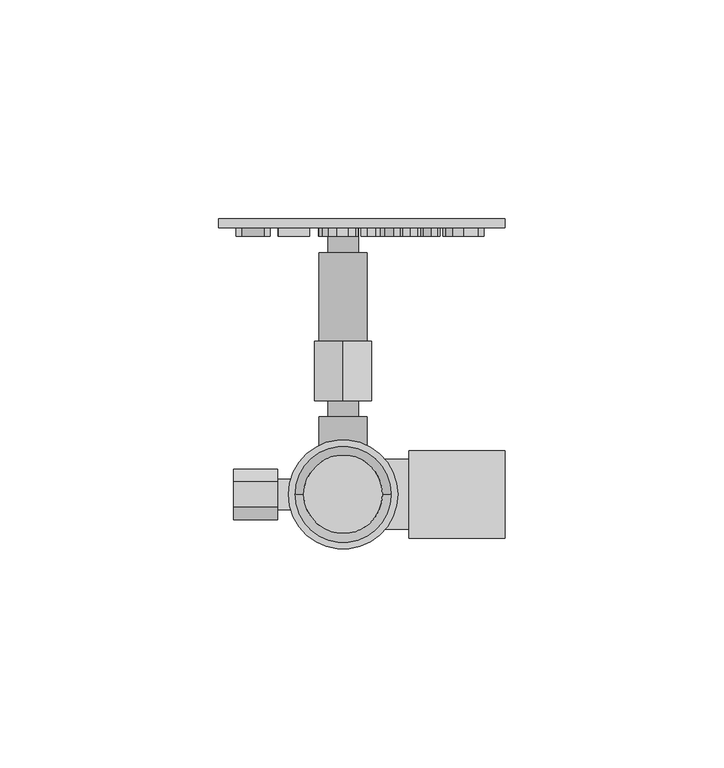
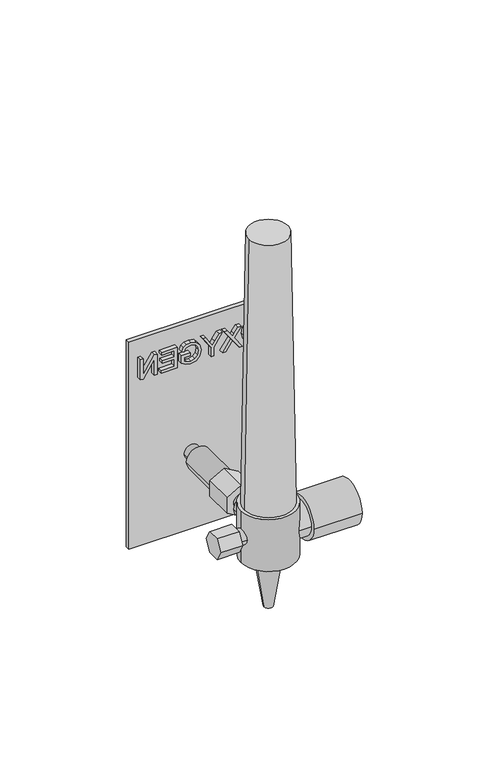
"""IFC4 building model written with IfcOpenShell, lengths in millimetres: proxy geometry, BIMHealth-Flowmeter_Oxygen-LOD2A-v1 : BIMHealth-Flowmeter_Oxygen-LOD2A-v1."""

import ifcopenshell
import ifcopenshell.guid

model = None  # the IFC model being written
_history = None  # IfcOwnerHistory: only IFC2X3 demands one
_inside = {}  # id of a spatial element -> (the spatial element, [elements in it])
_under = {}  # id of a project, library or spatial element -> (it, [spatial elements below it])
_declared = {}  # id of a project -> (the project, [libraries it declares])
_typed = {}  # id of a type object -> (the type object, [elements of that type])
_made_of = {}  # id of a material, layer set ... -> (it, [elements and type objects made of it])


def new_model(schema):
    """Start an empty IFC model of exactly this schema.

    Asked for "IFC4X3", IfcOpenShell would pick the latest addendum, in which some entities
    have other attributes; the version numbers below select the first issue.
    IFC2X3 requires an IfcOwnerHistory on every rooted entity: one is made here for all.
    """
    global model, _history
    if schema == "IFC4X3":
        model = ifcopenshell.file(schema_version=(4, 3, 0, 0))
    else:
        model = ifcopenshell.file(schema=schema)
    _inside.clear()
    _under.clear()
    _declared.clear()
    _typed.clear()
    _made_of.clear()
    _history = None
    if model.schema == "IFC2X3":
        org = make("IfcOrganization", Name="unknown")
        user = make(
            "IfcPersonAndOrganization",
            ThePerson=make("IfcPerson", FamilyName="unknown"),
            TheOrganization=org,
        )
        app = make(
            "IfcApplication",
            ApplicationDeveloper=org,
            Version="unknown",
            ApplicationFullName="unknown",
            ApplicationIdentifier="unknown",
        )
        _history = make(
            "IfcOwnerHistory",
            OwningUser=user,
            OwningApplication=app,
            ChangeAction="ADDED",
            CreationDate=0,
        )
    return model


def make(cls, **values):
    """One entity of the class cls with the attributes given. An attribute that is None is left unset."""
    return model.create_entity(
        cls, **{name: value for name, value in values.items() if value is not None}
    )


def rooted(cls, **values):
    """An entity with a GlobalId (a new one), such as an element, a storey or a relation."""
    return make(cls, GlobalId=ifcopenshell.guid.new(), OwnerHistory=_history, **values)


def si_unit(unit_type, name, prefix=None):
    """IfcSIUnit, for example si_unit("LENGTHUNIT", "METRE", prefix="MILLI")."""
    return make("IfcSIUnit", UnitType=unit_type, Prefix=prefix, Name=name)


def assignment(units):
    """IfcUnitAssignment: the units of a project."""
    return None if units is None else make("IfcUnitAssignment", Units=units)


def point(xyz):
    """IfcCartesianPoint."""
    return None if xyz is None else make("IfcCartesianPoint", Coordinates=xyz)


def direction(xyz):
    """IfcDirection."""
    return None if xyz is None else make("IfcDirection", DirectionRatios=xyz)


def frame(location, z_axis=None, x_axis=None):
    """IfcAxis2Placement3D, a coordinate frame: its origin and axes. An axis left out is left unset."""
    return make(
        "IfcAxis2Placement3D",
        Location=point(location),
        Axis=direction(z_axis),
        RefDirection=direction(x_axis),
    )


def frame_2d(location, x_axis=None):
    """IfcAxis2Placement2D, a coordinate frame in the plane: its origin and x axis."""
    return make(
        "IfcAxis2Placement2D", Location=point(location), RefDirection=direction(x_axis)
    )


def origin():
    """The frame at (0, 0, 0) with its axes left unset."""
    return frame((0.0, 0.0, 0.0))


def origin_2d():
    """The frame at (0, 0) in the plane with its x axis left unset."""
    return frame_2d((0.0, 0.0))


def place(relative_to, where):
    """IfcLocalPlacement: puts the frame where relative to a parent placement (None: the world)."""
    return make(
        "IfcLocalPlacement", PlacementRelTo=relative_to, RelativePlacement=where
    )


def context(
    kind, dimensions, precision=None, world=None, true_north=None, identifier=None
):
    """IfcGeometricRepresentationContext, for example the 3D "Model" context."""
    return make(
        "IfcGeometricRepresentationContext",
        ContextIdentifier=identifier,
        ContextType=kind,
        CoordinateSpaceDimension=dimensions,
        Precision=precision,
        WorldCoordinateSystem=world,
        TrueNorth=true_north,
    )


def project(units=None, contexts=None):
    """IfcProject with its units and contexts."""
    return rooted(
        "IfcProject",
        Name="project",
        RepresentationContexts=contexts,
        UnitsInContext=assignment(units),
    )


def spatial(cls, under=None, at=None, **own):
    """A site, building, storey or space (cls), placed at a placement, below another one or the project."""
    s = rooted(cls, ObjectPlacement=at, **own)
    if under is not None:
        _under.setdefault(under.id(), (under, []))[1].append(s)
    return s


def polyline(points):
    """IfcPolyline through the points."""
    return make("IfcPolyline", Points=[point(p) for p in points])


def circle_curve(where, radius):
    """IfcCircle in the frame where."""
    return make("IfcCircle", Position=where, Radius=radius)


def trimmed(basis, trim1, trim2, sense, master):
    """IfcTrimmedCurve: the piece of a basis curve between two trims."""
    return make(
        "IfcTrimmedCurve",
        BasisCurve=basis,
        Trim1=trim1,
        Trim2=trim2,
        SenseAgreement=sense,
        MasterRepresentation=master,
    )


def segment(curve, same_sense, transition):
    """IfcCompositeCurveSegment."""
    return make(
        "IfcCompositeCurveSegment",
        Transition=transition,
        SameSense=same_sense,
        ParentCurve=curve,
    )


def composite_curve(segments, self_intersect=None):
    """IfcCompositeCurve: segments joined end to end."""
    return make("IfcCompositeCurve", Segments=segments, SelfIntersect=self_intersect)


def outline(outer, holes=None, kind="AREA"):
    """IfcArbitraryClosedProfileDef: a profile drawn as a closed curve; with holes, ...WithVoids."""
    if holes is None:
        return make("IfcArbitraryClosedProfileDef", ProfileType=kind, OuterCurve=outer)
    return make(
        "IfcArbitraryProfileDefWithVoids",
        ProfileType=kind,
        OuterCurve=outer,
        InnerCurves=holes,
    )


def extrude(swept, where, along, depth):
    """IfcExtrudedAreaSolid: the profile swept, set in the frame where, extruded along a direction by depth."""
    return make(
        "IfcExtrudedAreaSolid",
        SweptArea=swept,
        Position=where,
        ExtrudedDirection=direction(along),
        Depth=depth,
    )


def shape(context_of_items, identifier, shape_type, items):
    """IfcShapeRepresentation: the items that make up one representation, for example the "Body"."""
    return make(
        "IfcShapeRepresentation",
        ContextOfItems=context_of_items,
        RepresentationIdentifier=identifier,
        RepresentationType=shape_type,
        Items=items,
    )


def source(mapping_origin, context_of_items, identifier, shape_type, items):
    """IfcRepresentationMap: a shape defined once, which mapped items show again and again."""
    return make(
        "IfcRepresentationMap",
        MappingOrigin=mapping_origin,
        MappedRepresentation=shape(context_of_items, identifier, shape_type, items),
    )


def transform(
    local_origin,
    x_axis=None,
    y_axis=None,
    z_axis=None,
    scale=None,
    scale2=None,
    scale3=None,
    uniform=True,
):
    """IfcCartesianTransformationOperator3D, or its non-uniform kind. x_axis, y_axis, z_axis: its Axis1, 2, 3."""
    if uniform:
        return make(
            "IfcCartesianTransformationOperator3D",
            Axis1=direction(x_axis),
            Axis2=direction(y_axis),
            LocalOrigin=point(local_origin),
            Scale=scale,
            Axis3=direction(z_axis),
        )
    return make(
        "IfcCartesianTransformationOperator3DnonUniform",
        Axis1=direction(x_axis),
        Axis2=direction(y_axis),
        LocalOrigin=point(local_origin),
        Scale=scale,
        Axis3=direction(z_axis),
        Scale2=scale2,
        Scale3=scale3,
    )


def mapped(mapping_source, mapping_target):
    """IfcMappedItem: shows the shape of a source again, moved by a transform."""
    return make(
        "IfcMappedItem", MappingSource=mapping_source, MappingTarget=mapping_target
    )


def made_of(thing, what):
    """Note that an element or type object is made of a material, layer set ...; save() writes the relation."""
    if what is not None:
        _made_of.setdefault(what.id(), (what, []))[1].append(thing)
    return thing


def element(
    cls,
    number,
    at=None,
    inside=None,
    cuts=None,
    type_object=None,
    material=None,
    context=None,
    identifier="Body",
    shape_type=None,
    held_by="IfcProductDefinitionShape",
    body=None,
    shapes=None,
    **own,
):
    """One element of the class cls, such as IfcWall. Its Tag is "e" and its number.

    at: its placement. inside: the storey or other place that contains it. cuts: it is an
    opening in that element (IfcRelVoidsElement). A single representation is given by context,
    identifier, shape_type and body (its items); several are given by shapes. held_by: the class
    of the entity that holds the representations. save() writes the other relations.
    """
    e = rooted(cls, Tag="e%d" % number, ObjectPlacement=at, **own)
    if body is not None:
        shapes = [shape(context, identifier, shape_type, body)]
    if shapes is not None:
        e.Representation = make(held_by, Representations=shapes)
    if inside is not None:
        _inside.setdefault(inside.id(), (inside, []))[1].append(e)
    if cuts is not None:
        rooted(
            "IfcRelVoidsElement", RelatingBuildingElement=cuts, RelatedOpeningElement=e
        )
    if type_object is not None:
        _typed.setdefault(type_object.id(), (type_object, []))[1].append(e)
    return made_of(e, material)


def aggregate(whole, parts):
    """IfcRelAggregates: a whole, such as a stair, and the parts it consists of."""
    return rooted("IfcRelAggregates", RelatingObject=whole, RelatedObjects=parts)


def save(model, path):
    """Write the relations noted so far, then the file.

    IfcRelAggregates (storeys below a building ...), IfcRelContainedInSpatialStructure (elements
    in a storey), IfcRelDefinesByType, IfcRelAssociatesMaterial and IfcRelDeclares: one each for
    every whole, place, type object, material and project.
    """
    for whole, parts in _under.values():
        aggregate(whole, parts)
    for where, things in _inside.values():
        rooted(
            "IfcRelContainedInSpatialStructure",
            RelatedElements=things,
            RelatingStructure=where,
        )
    for kind, things in _typed.values():
        rooted("IfcRelDefinesByType", RelatedObjects=things, RelatingType=kind)
    for what, things in _made_of.values():
        rooted("IfcRelAssociatesMaterial", RelatedObjects=things, RelatingMaterial=what)
    for by, libraries in _declared.values():
        rooted("IfcRelDeclares", RelatingContext=by, RelatedDefinitions=libraries)
    model.write(path)


def plane_surface(at):
    """IfcPlane: the flat surface through the origin of the frame at, square to its z axis."""
    return make("IfcPlane", Position=at)


def cylinder_surface(at, radius):
    """IfcCylindricalSurface: all points at the distance radius from the z axis of the frame at."""
    return make("IfcCylindricalSurface", Position=at, Radius=radius)


def revolved_surface(curve, axis_point, axis_direction):
    """IfcSurfaceOfRevolution: the curve turned about the line through axis_point along axis_direction."""
    return make(
        "IfcSurfaceOfRevolution",
        SweptCurve=make("IfcArbitraryOpenProfileDef", ProfileType="CURVE", Curve=curve),
        AxisPosition=make("IfcAxis1Placement", Location=point(axis_point), Axis=direction(axis_direction)),
    )


def advanced_brep(points, edges, surfaces, faces):
    """IfcAdvancedBrep: a solid bounded by faces that lie on surfaces and meet in shared edges.

    An edge is (start, end): straight between two places in points (the first is 0);
    or (start, end, curve); or (start, end, curve, False) where it runs against its curve.
    A face is (place in surfaces, loops), or (place, loops, False) where it looks against
    its surface's normal. A loop lists edges by number (the first is 1), with a minus sign
    where the edge is run from its end to its start. The first loop is the outer one.
    """
    corners = [point(p) for p in points]
    vertices = [make("IfcVertexPoint", VertexGeometry=c) for c in corners]
    made = []
    for start, end, *more in edges:
        made.append(
            make(
                "IfcEdgeCurve",
                EdgeStart=vertices[start],
                EdgeEnd=vertices[end],
                EdgeGeometry=more[0] if more else make("IfcPolyline", Points=[corners[start], corners[end]]),
                SameSense=more[1] if len(more) > 1 else True,
            )
        )
    hull = []
    for where, loops, *sense in faces:
        bounds = []
        for j, loop in enumerate(loops):
            ring = [make("IfcOrientedEdge", EdgeElement=made[abs(k) - 1], Orientation=k > 0) for k in loop]
            bounds.append(
                make(
                    "IfcFaceOuterBound" if j == 0 else "IfcFaceBound",
                    Bound=make("IfcEdgeLoop", EdgeList=ring),
                    Orientation=True,
                )
            )
        hull.append(make("IfcAdvancedFace", Bounds=bounds, FaceSurface=surfaces[where], SameSense=sense[0] if sense else True))
    return make("IfcAdvancedBrep", Outer=make("IfcClosedShell", CfsFaces=hull))


def generic_models_37f5f703(model_context):
    return source(origin(), model_context, "Body", "SolidModel", [
        extrude(outline(polyline([(1261.3333647, 32.1837079), (1265.1578839, 30.8712079), (1266.5400955, 27.4841887), (1265.891057, 25.0346694), (1264.0809608, 23.3712079), (1261.4463455, 22.7990925), (1258.7756724, 23.401256), (1256.9920185, 25.1079868), (1256.3862493, 27.4914002), (1257.0557205, 29.9673618), (1258.8826435, 31.6212079), (1261.3333647, 32.1837079)]), holes=[polyline([(1261.3213455, 30.9529387), (1258.6074032, 29.9685637), (1257.6170185, 27.4986118), (1258.6170185, 25.0070252), (1261.4559608, 24.0298618), (1263.4872108, 24.448131), (1264.8321628, 25.6704868), (1265.3093262, 27.4769771), (1264.3898551, 29.9264964), (1261.3213455, 30.9529387)])]), frame((0.0, 58.9451551, 0.0), z_axis=(0.0, 1.0, 0.0), x_axis=(0.0, 0.0, 1.0)), (0.0, 0.0, 1.0), 2.0),
        extrude(outline(polyline([(1256.5400955, 22.1837079), (1261.9054801, 18.3904387), (1266.3862493, 21.5683233), (1266.3862493, 20.0947656), (1263.8622108, 18.3039002), (1262.8790378, 17.7005348), (1263.8838455, 16.9938041), (1266.3862493, 15.2221694), (1266.3862493, 13.7221694), (1261.8886532, 16.9024579), (1256.5400955, 13.1067848), (1256.5400955, 14.5827464), (1260.1049993, 17.1139964), (1260.8429801, 17.6404387), (1260.0328839, 18.2149579), (1256.5400955, 20.6837079), (1256.5400955, 22.1837079)])), frame((0.0, 58.9451551, 0.0), z_axis=(0.0, 1.0, 0.0), x_axis=(0.0, 0.0, 1.0)), (0.0, 0.0, 1.0), 2.0),
        extrude(outline(polyline([(1256.5400955, 9.1067848), (1260.7107685, 9.1067848), (1266.3862493, 12.9529387), (1266.3862493, 11.5034194), (1263.3549993, 9.4505348), (1261.8069224, 8.4000541), (1263.4655762, 7.3447656), (1266.3862493, 5.4817848), (1266.3862493, 4.0298618), (1260.7107685, 7.8760156), (1256.5400955, 7.8760156), (1256.5400955, 9.1067848)])), frame((0.0, 58.9451551, 0.0), z_axis=(0.0, 1.0, 0.0), x_axis=(0.0, 0.0, 1.0)), (0.0, 0.0, 1.0), 2.0),
        extrude(outline(polyline([(1260.3862493, -1.6624459), (1261.6170185, -1.6624459), (1261.6170185, -5.6624459), (1257.9367301, -5.6624459), (1256.7756724, -3.6876863), (1256.3862493, -1.5999459), (1257.0052397, 1.0286598), (1258.797307, 2.8123137), (1261.4150955, 3.4144771), (1264.0917782, 2.8147175), (1265.9367301, 1.0899579), (1266.5400955, -1.5013882), (1266.1903358, -3.426869), (1265.2167782, -4.7766286), (1263.5881724, -5.520619), (1263.2684608, -4.3860036), (1264.406682, -3.8247056), (1265.062932, -2.8655709), (1265.3093262, -1.4821575), (1265.0437012, 0.0935637), (1264.3465858, 1.1656791), (1263.3982685, 1.7990925), (1261.4655762, 2.1837079), (1259.3201435, 1.7209675), (1258.0364897, 0.3748137), (1257.6170185, -1.5013882), (1257.9331243, -3.1852825), (1258.6074032, -4.4316767), (1260.3862493, -4.4316767), (1260.3862493, -1.6624459)])), frame((0.0, 58.9451551, 0.0), z_axis=(0.0, 1.0, 0.0), x_axis=(0.0, 0.0, 1.0)), (0.0, 0.0, 1.0), 2.0),
        extrude(outline(polyline([(1256.5400955, -7.6624459), (1266.3862493, -7.6624459), (1266.3862493, -14.739369), (1265.1554801, -14.739369), (1265.1554801, -8.8932152), (1262.2324032, -8.8932152), (1262.2324032, -14.4316767), (1261.0016339, -14.4316767), (1261.0016339, -8.8932152), (1257.7708647, -8.8932152), (1257.7708647, -14.8932152), (1256.5400955, -14.8932152), (1256.5400955, -7.6624459)])), frame((0.0, 58.9451551, 0.0), z_axis=(0.0, 1.0, 0.0), x_axis=(0.0, 0.0, 1.0)), (0.0, 0.0, 1.0), 2.0),
        extrude(outline(polyline([(1256.5400955, -16.739369), (1266.3862493, -16.739369), (1266.3862493, -18.0566767), (1258.5857685, -23.2009075), (1266.3862493, -23.2009075), (1266.3862493, -24.4316767), (1256.5400955, -24.4316767), (1256.5400955, -23.114369), (1264.3429801, -17.9701382), (1256.5400955, -17.9701382), (1256.5400955, -16.739369)])), frame((0.0, 58.9451551, 0.0), z_axis=(0.0, 1.0, 0.0), x_axis=(0.0, 0.0, 1.0)), (0.0, 0.0, 1.0), 2.0),
        extrude(outline(polyline([(37.0, 62.9451551), (37.0, 60.9451551), (-28.4571603, 60.9451551), (-28.4571603, 62.9451551), (37.0, 62.9451551)])), frame((0.0, 0.0, 1175.0), z_axis=(0.0, 0.0, 1.0), x_axis=(1.0, 0.0, 0.0)), (0.0, 0.0, 1.0), 100.0),
        advanced_brep(
        [(-15.0, 5.7735027, 1212.5), (-15.0, 2.8867513, 1217.5), (-15.0, -2.8867513, 1217.5), (-15.0, -5.7735027, 1212.5), (-15.0, -2.8867513, 1207.5), (-15.0, 2.8867513, 1207.5), (-15.0, -3.5, 1212.5), (-15.0, 3.5, 1212.5), (-25.0, 5.7735027, 1212.5), (-25.0, 2.8867513, 1207.5), (-25.0, -2.8867513, 1207.5), (-25.0, -5.7735027, 1212.5), (-25.0, -2.8867513, 1217.5), (-25.0, 2.8867513, 1217.5), (0.0, 3.5, 1212.5), (0.0, -3.5, 1212.5)],
        [
            (0, 1),
            (1, 2),
            (2, 3),
            (3, 4),
            (4, 5),
            (5, 0),
            (6, 7, circle_curve(frame((-15.0, 0.0, 1212.5), z_axis=(-1.0, 0.0, 0.0), x_axis=(0.0, -1.0, 0.0)), 3.5)),
            (7, 6, circle_curve(frame((-15.0, 0.0, 1212.5), z_axis=(-1.0, 0.0, 0.0), x_axis=(0.0, -1.0, 0.0)), 3.5)),
            (8, 9),
            (9, 10),
            (10, 11),
            (11, 12),
            (12, 13),
            (13, 8),
            (5, 9),
            (8, 0),
            (4, 10),
            (3, 11),
            (2, 12),
            (1, 13),
            (14, 15, circle_curve(frame((0.0, 0.0, 1212.5), z_axis=(1.0, 0.0, 0.0), x_axis=(0.0, -1.0, 0.0)), 3.5)),
            (15, 14, circle_curve(frame((0.0, 0.0, 1212.5), z_axis=(1.0, 0.0, 0.0), x_axis=(0.0, -1.0, 0.0)), 3.5)),
            (15, 6),
            (7, 14),
        ],
        [
            plane_surface(frame((-15.0, 5.7735027, 1212.5), z_axis=(1.0000000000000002, 0.0, 0.0), x_axis=(0.0, -0.5000000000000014, -0.8660254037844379))),
            plane_surface(frame((-25.0, 5.7735027, 1212.5), z_axis=(-1.0000000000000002, 0.0, 0.0), x_axis=(0.0, 0.5000000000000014, 0.8660254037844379))),
            plane_surface(frame((-15.0, 5.7735027, 1212.5), z_axis=(0.0, 0.8660254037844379, -0.5000000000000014), x_axis=(-1.0, 0.0, 0.0))),
            plane_surface(frame((-15.0, 2.8867513, 1207.5), z_axis=(0.0, 0.0, -1.0), x_axis=(-1.0, 0.0, 0.0))),
            plane_surface(frame((-15.0, -2.8867513, 1207.5), z_axis=(0.0, -0.8660254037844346, -0.5000000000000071), x_axis=(-1.0, 0.0, 0.0))),
            plane_surface(frame((-15.0, -5.7735027, 1212.5), z_axis=(0.0, -0.8660254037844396, 0.4999999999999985), x_axis=(-1.0, 0.0, 0.0))),
            plane_surface(frame((-15.0, -2.8867513, 1217.5), z_axis=(0.0, 0.0, 1.0), x_axis=(-1.0, 0.0, 0.0))),
            plane_surface(frame((-15.0, 2.8867513, 1217.5), z_axis=(0.0, 0.8660254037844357, 0.5000000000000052), x_axis=(-1.0, 0.0, 0.0))),
            plane_surface(frame((0.0, -3.5, 1212.5), z_axis=(1.0, 0.0, 0.0), x_axis=(0.0, 0.0, 1.0))),
            cylinder_surface(frame((-15.0, 0.0, 1212.5), z_axis=(1.0, 0.0, 0.0), x_axis=(0.0, -1.0, 0.0)), 3.5),
        ],
        [
            (0, [[1, 2, 3, 4, 5, 6], [7, 8]]),
            (1, [[9, 10, 11, 12, 13, 14]]),
            (2, [[15, -9, 16, -6]]),
            (3, [[17, -10, -15, -5]]),
            (4, [[18, -11, -17, -4]]),
            (5, [[19, -12, -18, -3]]),
            (6, [[20, -13, -19, -2]]),
            (7, [[-16, -14, -20, -1]]),
            (8, [[21, 22]]),
            (9, [[23, -8, 24, -22]]),
            (9, [[-24, -7, -23, -21]]),
        ],
    ),
        advanced_brep(
        [(3.5, 60.9451551, 1212.5), (-3.5, 60.9451551, 1212.5), (-3.5, 55.2141436, 1212.5), (3.5, 55.2141436, 1212.5), (5.5, 55.2141436, 1212.5), (-5.5, 55.2141436, 1212.5), (-5.5, 34.9541654, 1212.5), (5.5, 34.9541654, 1212.5), (-6.4951905, 34.9541654, 1216.25), (0.0, 34.9541654, 1220.0), (6.4951905, 34.9541654, 1216.25), (6.4951905, 34.9541654, 1208.75), (0.0, 34.9541654, 1205.0), (-6.4951905, 34.9541654, 1208.75), (-6.4951905, 21.3523267, 1216.25), (-6.4951905, 21.3523267, 1208.75), (0.0, 21.3523267, 1205.0), (6.4951905, 21.3523267, 1208.75), (6.4951905, 21.3523267, 1216.25), (0.0, 21.3523267, 1220.0), (3.5, 21.3523267, 1212.5), (-3.5, 21.3523267, 1212.5), (-3.5, 17.7343884, 1212.5), (3.5, 17.7343884, 1212.5), (5.5, 17.7343884, 1212.5), (-5.5, 17.7343884, 1212.5), (5.5, 0.0, 1212.5), (-5.5, 0.0, 1212.5)],
        [
            (0, 1, circle_curve(frame((0.0, 60.9451551, 1212.5), z_axis=(0.0, 1.0, 0.0), x_axis=(-1.0, 0.0, 0.0)), 3.5)),
            (1, 0, circle_curve(frame((0.0, 60.9451551, 1212.5), z_axis=(0.0, 1.0, 0.0), x_axis=(-1.0, 0.0, 0.0)), 3.5)),
            (1, 2),
            (2, 3, circle_curve(frame((0.0, 55.2141436, 1212.5), z_axis=(0.0, 1.0, 0.0), x_axis=(-1.0, 0.0, 0.0)), 3.5)),
            (3, 0),
            (3, 2, circle_curve(frame((0.0, 55.2141436, 1212.5), z_axis=(0.0, 1.0, 0.0), x_axis=(-1.0, 0.0, 0.0)), 3.5)),
            (4, 5, circle_curve(frame((0.0, 55.2141436, 1212.5), z_axis=(0.0, 1.0, 0.0), x_axis=(-1.0, 0.0, 0.0)), 5.5)),
            (5, 4, circle_curve(frame((0.0, 55.2141436, 1212.5), z_axis=(0.0, 1.0, 0.0), x_axis=(-1.0, 0.0, 0.0)), 5.5)),
            (5, 6),
            (6, 7, circle_curve(frame((0.0, 34.9541654, 1212.5), z_axis=(0.0, 1.0, 0.0), x_axis=(-1.0, 0.0, 0.0)), 5.5)),
            (7, 4),
            (7, 6, circle_curve(frame((0.0, 34.9541654, 1212.5), z_axis=(0.0, 1.0, 0.0), x_axis=(-1.0, 0.0, 0.0)), 5.5)),
            (8, 9),
            (9, 10),
            (10, 11),
            (11, 12),
            (12, 13),
            (13, 8),
            (14, 15),
            (15, 16),
            (16, 17),
            (17, 18),
            (18, 19),
            (19, 14),
            (20, 21, circle_curve(frame((0.0, 21.3523267, 1212.5), z_axis=(0.0, 1.0, 0.0), x_axis=(-1.0, 0.0, 0.0)), 3.5)),
            (21, 20, circle_curve(frame((0.0, 21.3523267, 1212.5), z_axis=(0.0, 1.0, 0.0), x_axis=(-1.0, 0.0, 0.0)), 3.5)),
            (13, 15),
            (14, 8),
            (12, 16),
            (11, 17),
            (10, 18),
            (9, 19),
            (21, 22),
            (22, 23, circle_curve(frame((0.0, 17.7343884, 1212.5), z_axis=(0.0, 1.0, 0.0), x_axis=(-1.0, 0.0, 0.0)), 3.5)),
            (23, 20),
            (23, 22, circle_curve(frame((0.0, 17.7343884, 1212.5), z_axis=(0.0, 1.0, 0.0), x_axis=(-1.0, 0.0, 0.0)), 3.5)),
            (24, 25, circle_curve(frame((0.0, 17.7343884, 1212.5), z_axis=(0.0, 1.0, 0.0), x_axis=(-1.0, 0.0, 0.0)), 5.5)),
            (25, 24, circle_curve(frame((0.0, 17.7343884, 1212.5), z_axis=(0.0, 1.0, 0.0), x_axis=(-1.0, 0.0, 0.0)), 5.5)),
            (26, 27, circle_curve(frame((0.0, 0.0, 1212.5), z_axis=(0.0, -1.0, 0.0), x_axis=(-1.0, 0.0, 0.0)), 5.5)),
            (27, 26, circle_curve(frame((0.0, 0.0, 1212.5), z_axis=(0.0, -1.0, 0.0), x_axis=(-1.0, 0.0, 0.0)), 5.5)),
            (25, 27),
            (26, 24),
        ],
        [
            plane_surface(frame((-3.5, 60.9451551, 1212.5), z_axis=(0.0, 1.0, 0.0), x_axis=(0.0, 0.0, -1.0))),
            cylinder_surface(frame((0.0, 55.2141436, 1212.5), z_axis=(0.0, 1.0, 0.0), x_axis=(-1.0, 0.0, 0.0)), 3.5),
            plane_surface(frame((-5.5, 55.2141436, 1212.5), z_axis=(0.0, 1.0, 0.0), x_axis=(0.0, 0.0, -1.0))),
            cylinder_surface(frame((0.0, 34.9541654, 1212.5), z_axis=(0.0, 1.0, 0.0), x_axis=(-1.0, 0.0, 0.0)), 5.5),
            plane_surface(frame((-6.4951905, 34.9541654, 1216.25), z_axis=(0.0, 1.0, 0.0), x_axis=(0.0, 0.0, -1.0))),
            plane_surface(frame((-6.4951905, 21.3523267, 1216.25), z_axis=(0.0, -1.0, 0.0), x_axis=(0.0, 0.0, 1.0))),
            plane_surface(frame((-6.4951905, 34.9541654, 1216.25), z_axis=(-1.0, 0.0, 0.0), x_axis=(0.0, -1.0, 0.0))),
            plane_surface(frame((-6.4951905, 34.9541654, 1208.75), z_axis=(-0.5000000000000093, 0.0, -0.8660254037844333), x_axis=(0.0, -1.0, 0.0))),
            plane_surface(frame((0.0, 34.9541654, 1205.0), z_axis=(0.4999999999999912, 0.0, -0.8660254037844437), x_axis=(0.0, -1.0, 0.0))),
            plane_surface(frame((6.4951905, 34.9541654, 1208.75), z_axis=(1.0, 0.0, 0.0), x_axis=(0.0, -1.0, 0.0))),
            plane_surface(frame((6.4951905, 34.9541654, 1216.25), z_axis=(0.5000000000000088, 0.0, 0.8660254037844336), x_axis=(0.0, -1.0, 0.0))),
            plane_surface(frame((0.0, 34.9541654, 1220.0), z_axis=(-0.49999999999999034, 0.0, 0.8660254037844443), x_axis=(0.0, -1.0, 0.0))),
            cylinder_surface(frame((0.0, 17.7343884, 1212.5), z_axis=(0.0, 1.0, 0.0), x_axis=(-1.0, 0.0, 0.0)), 3.5),
            plane_surface(frame((-5.5, 17.7343884, 1212.5), z_axis=(0.0, 1.0, 0.0), x_axis=(0.0, 0.0, -1.0))),
            plane_surface(frame((-5.5, 0.0, 1212.5), z_axis=(0.0, -1.0, 0.0), x_axis=(0.0, 0.0, 1.0))),
            cylinder_surface(frame((0.0, 0.0, 1212.5), z_axis=(0.0, 1.0, 0.0), x_axis=(-1.0, 0.0, 0.0)), 5.5),
        ],
        [
            (0, [[1, 2]]),
            (1, [[3, 4, 5, -2]]),
            (1, [[-5, 6, -3, -1]]),
            (2, [[7, 8], [-6, -4]]),
            (3, [[9, 10, 11, -8]]),
            (3, [[-11, 12, -9, -7]]),
            (4, [[13, 14, 15, 16, 17, 18], [-12, -10]]),
            (5, [[19, 20, 21, 22, 23, 24], [25, 26]]),
            (6, [[27, -19, 28, -18]]),
            (7, [[29, -20, -27, -17]]),
            (8, [[30, -21, -29, -16]]),
            (9, [[31, -22, -30, -15]]),
            (10, [[32, -23, -31, -14]]),
            (11, [[-28, -24, -32, -13]]),
            (12, [[-26, 33, 34, 35]]),
            (12, [[36, -33, -25, -35]]),
            (13, [[37, 38], [-36, -34]]),
            (14, [[39, 40]]),
            (15, [[41, -39, 42, -38]]),
            (15, [[-42, -40, -41, -37]]),
        ],
    ),
        advanced_brep(
        [(-9.0, 0.0, 1355.0), (9.0, 0.0, 1355.0), (-11.0, 0.0, 1225.0), (11.0, 0.0, 1225.0)],
        [
            (0, 1, circle_curve(frame((0.0, 0.0, 1355.0), z_axis=(0.0, 0.0, 1.0), x_axis=(1.0, 0.0, 0.0)), 9.0)),
            (1, 0, circle_curve(frame((0.0, 0.0, 1355.0), z_axis=(0.0, 0.0, 1.0), x_axis=(-1.0, 0.0, 0.0)), 9.0)),
            (2, 3, circle_curve(frame((0.0, 0.0, 1225.0), z_axis=(0.0, 0.0, -1.0), x_axis=(-1.0, 0.0, 0.0)), 11.0)),
            (3, 2, circle_curve(frame((0.0, 0.0, 1225.0), z_axis=(0.0, 0.0, -1.0), x_axis=(1.0, 0.0, 0.0)), 11.0)),
            (2, 0),
            (1, 3),
        ],
        [
            plane_surface(frame((0.0, 0.0, 1355.0), z_axis=(0.0, 0.0, 1.0), x_axis=(0.0, 1.0, 0.0))),
            plane_surface(frame((0.0, 0.0, 1225.0), z_axis=(0.0, 0.0, -1.0), x_axis=(0.0, 1.0, 0.0))),
            revolved_surface(polyline([(-9.0, 0.0, 1355.0), (-11.0, 0.0, 1225.0)]), (0.0, 0.0, 1940.0), (0.0, 0.0, -1.0)),
            revolved_surface(polyline([(9.0, 0.0, 1355.0), (11.0, 0.0, 1225.0)]), (0.0, 0.0, 1940.0), (0.0, 0.0, -1.0)),
        ],
        [
            (0, [[1, 2]]),
            (1, [[3, 4]]),
            (2, [[5, -2, 6, -3]]),
            (3, [[-6, -1, -5, -4]]),
        ],
    ),
        extrude(outline(composite_curve([segment(trimmed(circle_curve(frame_2d((0.0, 1212.5)), 8.0), [point((-8.0, 1212.5))], [point((8.0, 1212.5))], False, "CARTESIAN"), True, "CONTINUOUS"), segment(trimmed(circle_curve(frame_2d((0.0, 1212.5)), 8.0), [point((8.0, 1212.5))], [point((-8.0, 1212.5))], False, "CARTESIAN"), True, "CONTINUOUS")], self_intersect=False)), frame((0.0, 0.0, 0.0), z_axis=(1.0, 0.0, 0.0), x_axis=(0.0, 1.0, 0.0)), (0.0, 0.0, 1.0), 15.0),
        extrude(outline(composite_curve([segment(trimmed(circle_curve(frame_2d((0.0, 1212.5)), 10.0), [point((-10.0, 1212.5))], [point((10.0, 1212.5))], False, "CARTESIAN"), True, "CONTINUOUS"), segment(trimmed(circle_curve(frame_2d((0.0, 1212.5)), 10.0), [point((10.0, 1212.5))], [point((-10.0, 1212.5))], False, "CARTESIAN"), True, "CONTINUOUS")], self_intersect=False)), frame((15.0, 0.0, 0.0), z_axis=(1.0, 0.0, 0.0), x_axis=(0.0, 1.0, 0.0)), (0.0, 0.0, 1.0), 22.0),
        advanced_brep(
        [(-6.0, 0.0, 1200.0), (6.0, 0.0, 1200.0), (-2.0, 0.0, 1175.0), (2.0, 0.0, 1175.0)],
        [
            (0, 1, circle_curve(frame((0.0, 0.0, 1200.0), z_axis=(0.0, 0.0, 1.0), x_axis=(1.0, 0.0, 0.0)), 6.0)),
            (1, 0, circle_curve(frame((0.0, 0.0, 1200.0), z_axis=(0.0, 0.0, 1.0), x_axis=(-1.0, 0.0, 0.0)), 6.0)),
            (2, 3, circle_curve(frame((0.0, 0.0, 1175.0), z_axis=(0.0, 0.0, -1.0), x_axis=(-1.0, 0.0, 0.0)), 2.0)),
            (3, 2, circle_curve(frame((0.0, 0.0, 1175.0), z_axis=(0.0, 0.0, -1.0), x_axis=(1.0, 0.0, 0.0)), 2.0)),
            (2, 0),
            (1, 3),
        ],
        [
            plane_surface(frame((0.0, 0.0, 1200.0), z_axis=(0.0, 0.0, 1.0), x_axis=(0.0, 1.0, 0.0))),
            plane_surface(frame((0.0, 0.0, 1175.0), z_axis=(0.0, 0.0, -1.0), x_axis=(0.0, 1.0, 0.0))),
            revolved_surface(polyline([(-2.0, 0.0, 1175.0), (-6.0, 0.0, 1200.0)]), (0.0, 0.0, 1162.5), (0.0, 0.0, 1.0)),
            revolved_surface(polyline([(2.0, 0.0, 1175.0), (6.0, 0.0, 1200.0)]), (0.0, 0.0, 1162.5), (0.0, 0.0, 1.0)),
        ],
        [
            (0, [[1, 2]]),
            (1, [[3, 4]]),
            (2, [[5, -2, 6, -3]]),
            (3, [[-6, -1, -5, -4]]),
        ],
    ),
        extrude(outline(composite_curve([segment(trimmed(circle_curve(origin_2d(), 12.5), [point((-12.5, 0.0))], [point((12.5, 0.0))], False, "CARTESIAN"), True, "CONTINUOUS"), segment(trimmed(circle_curve(origin_2d(), 12.5), [point((12.5, 0.0))], [point((-12.5, 0.0))], False, "CARTESIAN"), True, "CONTINUOUS")], self_intersect=False)), frame((0.0, 0.0, 1200.0), z_axis=(0.0, 0.0, 1.0), x_axis=(1.0, 0.0, 0.0)), (0.0, 0.0, 1.0), 25.0),
    ])


if __name__ == "__main__":
    model = new_model("IFC4")
    model_context = context("Model", 3, world=origin())
    ifc_project = project(units=[si_unit("LENGTHUNIT", "METRE", prefix="MILLI")], contexts=[model_context])
    site = spatial("IfcSite", under=ifc_project)
    building = spatial("IfcBuilding", under=site)
    placement = place(None, origin())
    generic_models_shape = generic_models_37f5f703(model_context)
    element("IfcBuildingElementProxy", 1, Name="BIMHealth-Flowmeter_Oxygen-LOD2A-v1 : BIMHealth-Flowmeter_Oxygen-LOD2A-v1", ObjectType="BIMHealth-Flowmeter_Oxygen-LOD2A-v1 : BIMHealth-Flowmeter_Oxygen-LOD2A-v1", at=placement, inside=building, context=model_context, shape_type="MappedRepresentation", body=[
        mapped(generic_models_shape, transform((0.0, 0.0, 0.0), x_axis=(1.0, 0.0, 0.0), y_axis=(0.0, 1.0, 0.0), z_axis=(0.0, 0.0, 1.0))),
    ])
    save(model, "model.ifc")
